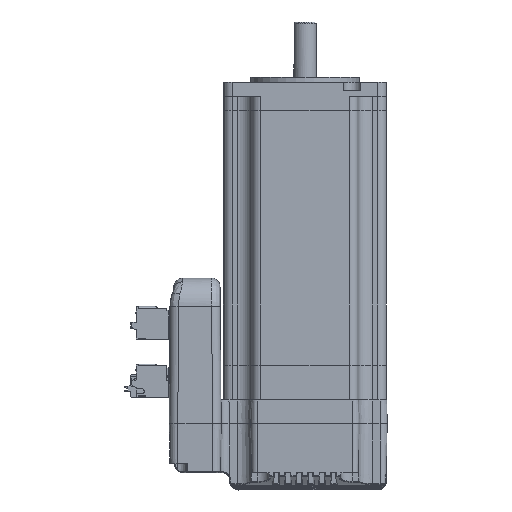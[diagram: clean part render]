
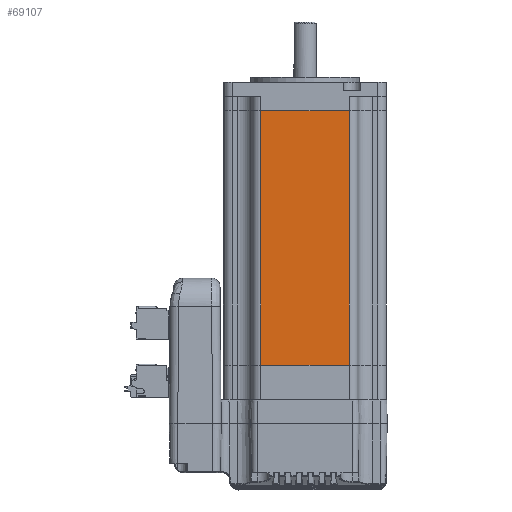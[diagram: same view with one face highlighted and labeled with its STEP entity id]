
A CAD part, left-side view. The second image highlights one B-rep face of the part: STEP entity #69107.
In plain terms, the highlighted planar face has unit normal (-1, 0, 0).
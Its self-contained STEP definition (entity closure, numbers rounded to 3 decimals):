
#961 = FACE_OUTER_BOUND ( 'NONE', #119351, .T. ) ;
#5948 = ORIENTED_EDGE ( 'NONE', *, *, #32477, .T. ) ;
#5989 = CARTESIAN_POINT ( 'NONE',  ( -28.5, -15.5, 60. ) ) ;
#11474 = CARTESIAN_POINT ( 'NONE',  ( -28.5, -15.5, 60. ) ) ;
#17215 = CARTESIAN_POINT ( 'NONE',  ( -28.5, -15.5, 0. ) ) ;
#17603 = LINE ( 'NONE', #46365, #98461 ) ;
#18613 = VERTEX_POINT ( 'NONE', #66334 ) ;
#22795 = LINE ( 'NONE', #41686, #46558 ) ;
#31880 = PLANE ( 'NONE',  #48741 ) ;
#32330 = DIRECTION ( 'NONE',  ( 0., 0., 1. ) ) ;
#32477 = EDGE_CURVE ( 'NONE', #121148, #58077, #73691, .T. ) ;
#34758 = ORIENTED_EDGE ( 'NONE', *, *, #66666, .T. ) ;
#41686 = CARTESIAN_POINT ( 'NONE',  ( -28.5, 15.5, 60. ) ) ;
#46365 = CARTESIAN_POINT ( 'NONE',  ( -28.5, 25.5, 89. ) ) ;
#46558 = VECTOR ( 'NONE', #62087, 1000. ) ;
#48741 = AXIS2_PLACEMENT_3D ( 'NONE', #11474, #93033, #32330 ) ;
#56537 = VERTEX_POINT ( 'NONE', #110729 ) ;
#58077 = VERTEX_POINT ( 'NONE', #116906 ) ;
#60092 = VECTOR ( 'NONE', #68600, 1000. ) ;
#62087 = DIRECTION ( 'NONE',  ( 0., 0., 1. ) ) ;
#63668 = ORIENTED_EDGE ( 'NONE', *, *, #64111, .T. ) ;
#64111 = EDGE_CURVE ( 'NONE', #58077, #18613, #17603, .T. ) ;
#66334 = CARTESIAN_POINT ( 'NONE',  ( -28.5, 15.5, 89. ) ) ;
#66666 = EDGE_CURVE ( 'NONE', #56537, #121148, #114035, .T. ) ;
#68600 = DIRECTION ( 'NONE',  ( 0., -1., 0. ) ) ;
#69107 = ADVANCED_FACE ( 'NONE', ( #961 ), #31880, .T. ) ;
#73691 = LINE ( 'NONE', #5989, #130744 ) ;
#76924 = DIRECTION ( 'NONE',  ( 0., 0., 1. ) ) ;
#84676 = EDGE_CURVE ( 'NONE', #56537, #18613, #22795, .T. ) ;
#93033 = DIRECTION ( 'NONE',  ( -1., 0., 0. ) ) ;
#97351 = DIRECTION ( 'NONE',  ( 0., 1., 0. ) ) ;
#98293 = ORIENTED_EDGE ( 'NONE', *, *, #84676, .F. ) ;
#98461 = VECTOR ( 'NONE', #97351, 1000. ) ;
#110729 = CARTESIAN_POINT ( 'NONE',  ( -28.5, 15.5, 0. ) ) ;
#114035 = LINE ( 'NONE', #17215, #60092 ) ;
#116906 = CARTESIAN_POINT ( 'NONE',  ( -28.5, -15.5, 89. ) ) ;
#117363 = CARTESIAN_POINT ( 'NONE',  ( -28.5, -15.5, 0. ) ) ;
#119351 = EDGE_LOOP ( 'NONE', ( #63668, #98293, #34758, #5948 ) ) ;
#121148 = VERTEX_POINT ( 'NONE', #117363 ) ;
#130744 = VECTOR ( 'NONE', #76924, 1000. ) ;
